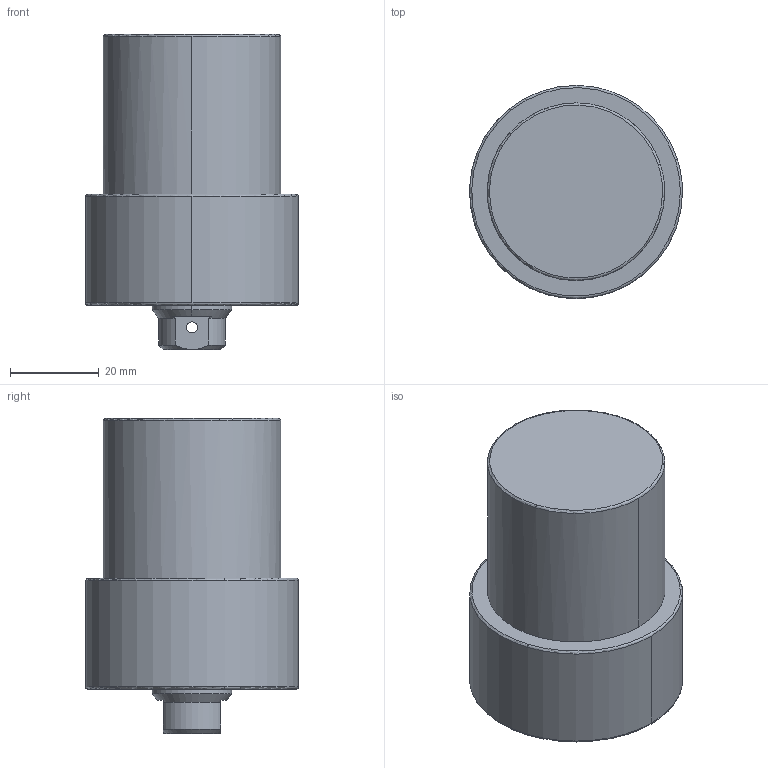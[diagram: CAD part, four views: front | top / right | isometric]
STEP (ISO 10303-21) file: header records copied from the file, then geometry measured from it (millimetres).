
FILE_DESCRIPTION((' '),'2;1');
FILE_NAME( 'TLLU-040GB-025.STEP.stp', '2025-10-24T16:37:11', (' '), ('--- Datakit www.datakit.com---'), ' Datakit CrossCadWare V2024.1 Dec 21 2023', 'Mastercam 2025', ' ');
FILE_SCHEMA(('AUTOMOTIVE_DESIGN { 1 0 10303 214 1 1 1 1 }'));
Length unit declared in the file: millimetre
Products named in the file (1): TLLU-040GB-025
Bounding box: 47.99 x 48 x 71 mm (x, y, z)
Volume: 90460.1 mm3; surface area: 13536.7 mm2
Topology: 1 solids, 1 shells, 66 faces, 200 edges, 133 vertices
Faces by surface type: cylinder 26, cone 24, plane 10, torus 6
Entity records: 3000 total; most frequent: CARTESIAN_POINT 1126, DIRECTION 428, ORIENTED_EDGE 380, EDGE_CURVE 190, AXIS2_PLACEMENT_3D 187, VERTEX_POINT 133, CIRCLE 120, EDGE_LOOP 77
